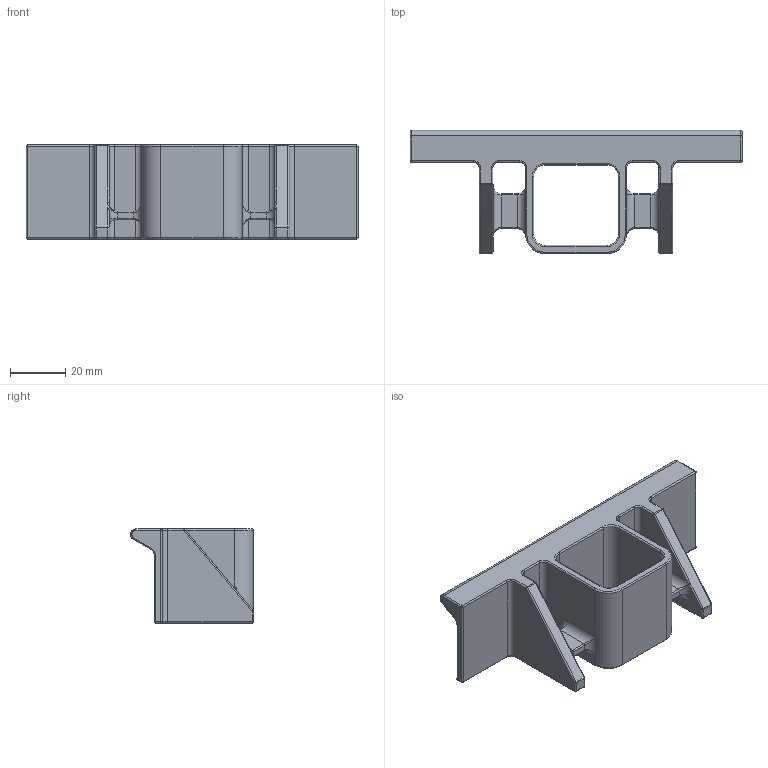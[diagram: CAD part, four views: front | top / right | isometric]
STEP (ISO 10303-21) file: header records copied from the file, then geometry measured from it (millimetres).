
FILE_DESCRIPTION((''),'2;1');
FILE_NAME('OUTLET-SHELF','2020-10-02T00:10:42',('gearworks'),(''),'CREO PARAMETRIC BY PTC INC, 2018100','CREO PARAMETRIC BY PTC INC, 2018100','');
FILE_SCHEMA(('CONFIG_CONTROL_DESIGN'));
Length unit declared in the file: millimetre
Products named in the file (1): OUTLET-SHELF
Bounding box: 120 x 44.54 x 34 mm (x, y, z)
Volume: 37294.8 mm3; surface area: 20621.8 mm2
Topology: 1 solids, 1 shells, 208 faces, 466 edges, 256 vertices
Faces by surface type: cylinder 95, torus 46, plane 33, sphere 20, bspline 14
Entity records: 6578 total; most frequent: CARTESIAN_POINT 1886, DIRECTION 1072, ORIENTED_EDGE 932, EDGE_CURVE 466, AXIS2_PLACEMENT_3D 440, VERTEX_POINT 256, CIRCLE 246, EDGE_LOOP 210
